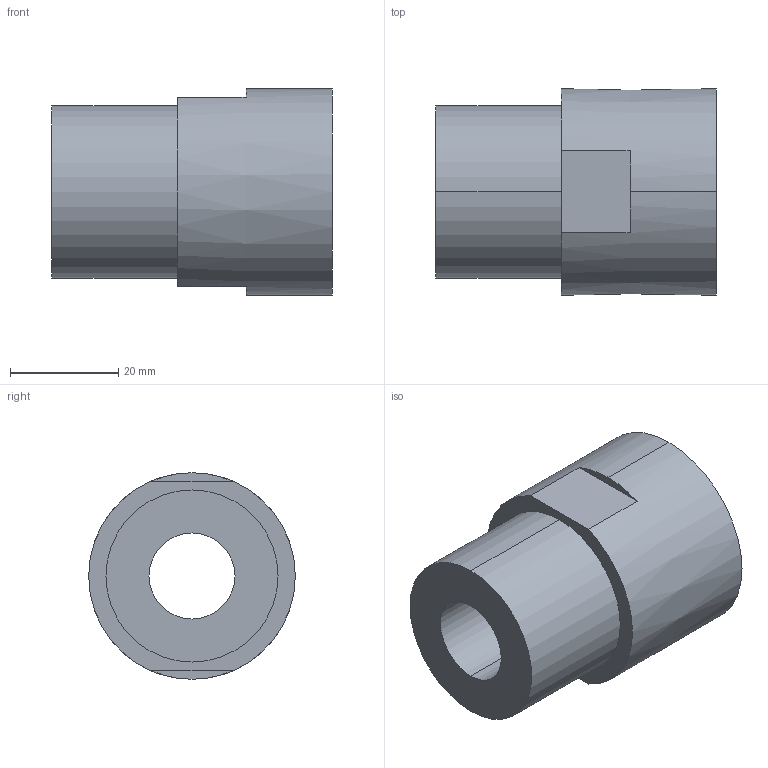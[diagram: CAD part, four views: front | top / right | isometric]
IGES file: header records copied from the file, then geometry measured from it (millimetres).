
Start section: SolidWorks IGES file using analytic representation for surfaces
Global section: file name: S:\Product Visuals\FILES FOR PUBLICATION\SOLID MODELS FOR PUBLICATION\60\front-mount-liquid-fitting\female-npt\Fitting FNPT 12.IGS; native system: SolidWorks 2012; preprocessor: SolidWorks 2012; author: rachel.dressel; date: 121112.104207; units: inch
Bounding box: 51.69 x 38.1 x 38.1 mm (x, y, z)
Volume: 37657.4 mm3; surface area: 10461.5 mm2
Topology: 1 solids, 1 shells, 18 faces, 40 edges, 26 vertices
Faces by surface type: revolution 10, plane 8
